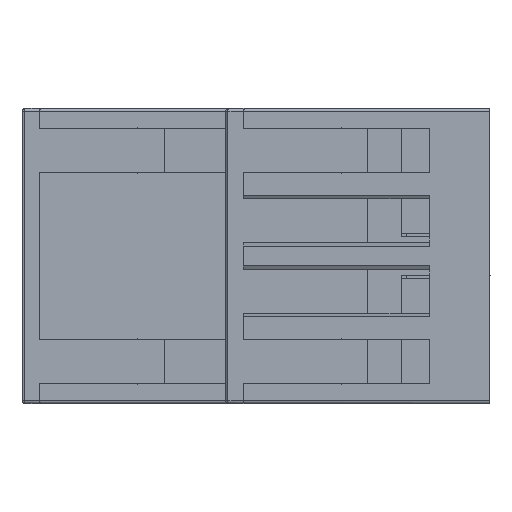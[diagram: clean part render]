
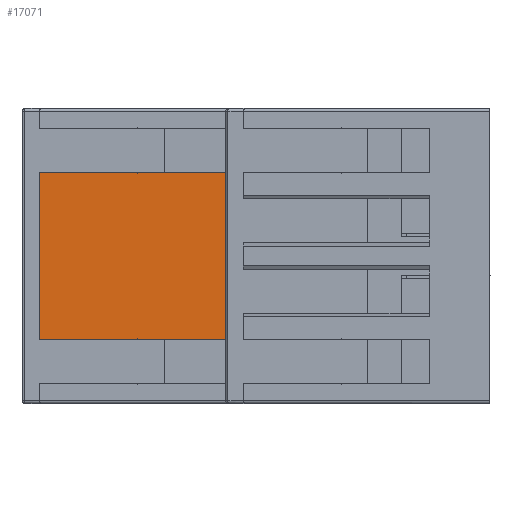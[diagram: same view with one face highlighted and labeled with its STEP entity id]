
A CAD part, left-side view. The second image highlights one B-rep face of the part: STEP entity #17071.
In plain terms, the highlighted planar face has unit normal (-1, 0, 0).
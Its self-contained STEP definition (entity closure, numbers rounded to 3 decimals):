
#206 = ORIENTED_EDGE ( 'NONE', *, *, #24944, .T. ) ;
#3187 = VECTOR ( 'NONE', #9639, 1000. ) ;
#3999 = VECTOR ( 'NONE', #20924, 1000. ) ;
#4197 = VERTEX_POINT ( 'NONE', #38765 ) ;
#4464 = ORIENTED_EDGE ( 'NONE', *, *, #13889, .F. ) ;
#4863 = EDGE_LOOP ( 'NONE', ( #23100, #206, #4464, #24806, #7418, #38035 ) ) ;
#5283 = CARTESIAN_POINT ( 'NONE',  ( -68.8, 24., 13.45 ) ) ;
#5971 = LINE ( 'NONE', #6441, #27710 ) ;
#6441 = CARTESIAN_POINT ( 'NONE',  ( -68.8, 40.9, 13.45 ) ) ;
#7418 = ORIENTED_EDGE ( 'NONE', *, *, #33522, .F. ) ;
#9639 = DIRECTION ( 'NONE',  ( 0., 0., -1. ) ) ;
#10820 = DIRECTION ( 'NONE',  ( 0., 0., 1. ) ) ;
#11468 = EDGE_CURVE ( 'NONE', #27138, #16436, #53932, .T. ) ;
#11801 = DIRECTION ( 'NONE',  ( 0., -1., 0. ) ) ;
#11918 = DIRECTION ( 'NONE',  ( 0., -1., 0. ) ) ;
#13317 = CARTESIAN_POINT ( 'NONE',  ( -68.8, 32., -7.6 ) ) ;
#13436 = EDGE_CURVE ( 'NONE', #33021, #4197, #5971, .T. ) ;
#13889 = EDGE_CURVE ( 'NONE', #27138, #31978, #37938, .T. ) ;
#15115 = CARTESIAN_POINT ( 'NONE',  ( -68.8, 40.9, -7.6 ) ) ;
#16436 = VERTEX_POINT ( 'NONE', #23745 ) ;
#16547 = CARTESIAN_POINT ( 'NONE',  ( -68.8, 24., -7.6 ) ) ;
#17071 = ADVANCED_FACE ( 'NONE', ( #46440 ), #17328, .F. ) ;
#17328 = PLANE ( 'NONE',  #48939 ) ;
#18616 = VECTOR ( 'NONE', #11918, 1000. ) ;
#20924 = DIRECTION ( 'NONE',  ( 0., 1., 0. ) ) ;
#23100 = ORIENTED_EDGE ( 'NONE', *, *, #56428, .F. ) ;
#23647 = VECTOR ( 'NONE', #11801, 1000. ) ;
#23745 = CARTESIAN_POINT ( 'NONE',  ( -68.8, 32., 7.6 ) ) ;
#24218 = CARTESIAN_POINT ( 'NONE',  ( -68.8, 24., -7.6 ) ) ;
#24806 = ORIENTED_EDGE ( 'NONE', *, *, #11468, .T. ) ;
#24944 = EDGE_CURVE ( 'NONE', #34671, #31978, #35271, .T. ) ;
#26157 = DIRECTION ( 'NONE',  ( 0., 1., 0. ) ) ;
#27138 = VERTEX_POINT ( 'NONE', #27601 ) ;
#27601 = CARTESIAN_POINT ( 'NONE',  ( -68.8, 24., 7.6 ) ) ;
#27710 = VECTOR ( 'NONE', #10820, 1000. ) ;
#28475 = LINE ( 'NONE', #16547, #3999 ) ;
#29223 = CARTESIAN_POINT ( 'NONE',  ( -68.8, 24., 7.6 ) ) ;
#29474 = DIRECTION ( 'NONE',  ( 0., 1., 0. ) ) ;
#30252 = LINE ( 'NONE', #29223, #18616 ) ;
#31978 = VERTEX_POINT ( 'NONE', #24218 ) ;
#33021 = VERTEX_POINT ( 'NONE', #15115 ) ;
#33522 = EDGE_CURVE ( 'NONE', #4197, #16436, #30252, .T. ) ;
#33672 = CARTESIAN_POINT ( 'NONE',  ( -68.8, 16.505, 7.6 ) ) ;
#34671 = VERTEX_POINT ( 'NONE', #13317 ) ;
#35271 = LINE ( 'NONE', #50798, #23647 ) ;
#37938 = LINE ( 'NONE', #5283, #3187 ) ;
#38035 = ORIENTED_EDGE ( 'NONE', *, *, #13436, .F. ) ;
#38765 = CARTESIAN_POINT ( 'NONE',  ( -68.8, 40.9, 7.6 ) ) ;
#42371 = VECTOR ( 'NONE', #29474, 1000. ) ;
#46440 = FACE_OUTER_BOUND ( 'NONE', #4863, .T. ) ;
#47849 = CARTESIAN_POINT ( 'NONE',  ( -68.8, 24., 13.45 ) ) ;
#48939 = AXIS2_PLACEMENT_3D ( 'NONE', #47849, #52233, #26157 ) ;
#50798 = CARTESIAN_POINT ( 'NONE',  ( -68.8, 16.505, -7.6 ) ) ;
#52233 = DIRECTION ( 'NONE',  ( 1., 0., 0. ) ) ;
#53932 = LINE ( 'NONE', #33672, #42371 ) ;
#56428 = EDGE_CURVE ( 'NONE', #34671, #33021, #28475, .T. ) ;
